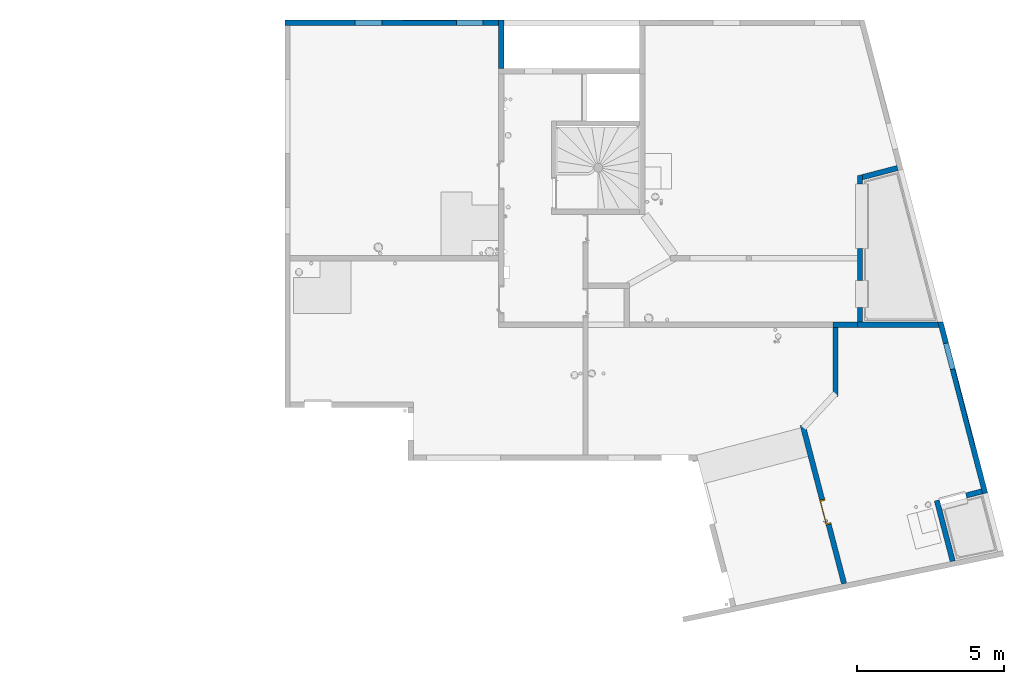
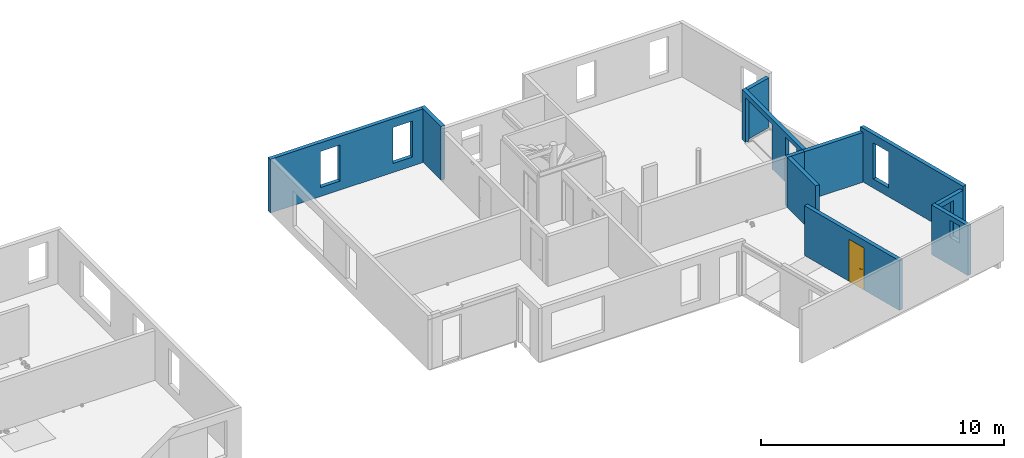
# One storey, part 15 of 24: 11 walls, 1 door, 12 openings.
"""IFC2X3 building model written with IfcOpenShell, lengths in centimetres."""

from ifc_helpers import new_model, entity, si_unit, converted_unit, derived_unit, direction, frame, frame_2d, origin, place, context, subcontext, project, spatial, polyline, rectangle, outline, extrude, faceted_brep, source, transform, mapped, material, material_list, layer, layer_set, layer_usage, type_object, type_shapes, element, fill, save


model = new_model("IFC2X3")

# Units and contexts
model_context = context("Model", 3, precision=0.001, world=origin(), true_north=direction((6.12303176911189e-17, 1.0)))
body_context = subcontext(model_context, "Body", "Model", "MODEL_VIEW")
ifc_project = project(units=[si_unit("LENGTHUNIT", "METRE", prefix="CENTI"), si_unit("AREAUNIT", "SQUARE_METRE"), si_unit("VOLUMEUNIT", "CUBIC_METRE"), converted_unit("PLANEANGLEUNIT", "DEGREE", entity("IfcRatioMeasure", 0.0174532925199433), si_unit("PLANEANGLEUNIT", "RADIAN"), dimensions=[0, 0, 0, 0, 0, 0, 0]), si_unit("MASSUNIT", "GRAM", prefix="KILO"), derived_unit("MASSDENSITYUNIT", [(si_unit("MASSUNIT", "GRAM", prefix="KILO"), 1), (si_unit("LENGTHUNIT", "METRE"), -3)]), si_unit("TIMEUNIT", "SECOND"), si_unit("FREQUENCYUNIT", "HERTZ"), si_unit("THERMODYNAMICTEMPERATUREUNIT", "DEGREE_CELSIUS"), derived_unit("THERMALTRANSMITTANCEUNIT", [(si_unit("MASSUNIT", "GRAM", prefix="KILO"), 1), (si_unit("THERMODYNAMICTEMPERATUREUNIT", "KELVIN"), -1), (si_unit("TIMEUNIT", "SECOND"), -3)]), derived_unit("VOLUMETRICFLOWRATEUNIT", [(si_unit("LENGTHUNIT", "METRE"), 3), (si_unit("TIMEUNIT", "SECOND"), -1)]), si_unit("ELECTRICCURRENTUNIT", "AMPERE"), si_unit("ELECTRICVOLTAGEUNIT", "VOLT"), si_unit("POWERUNIT", "WATT"), si_unit("FORCEUNIT", "NEWTON"), si_unit("ILLUMINANCEUNIT", "LUX"), si_unit("LUMINOUSFLUXUNIT", "LUMEN"), si_unit("LUMINOUSINTENSITYUNIT", "CANDELA"), derived_unit("USERDEFINED", [(si_unit("MASSUNIT", "GRAM", prefix="KILO"), -1), (si_unit("LENGTHUNIT", "METRE"), -2), (si_unit("TIMEUNIT", "SECOND"), 3), (si_unit("LUMINOUSFLUXUNIT", "LUMEN"), 1)]), derived_unit("LINEARVELOCITYUNIT", [(si_unit("LENGTHUNIT", "METRE"), 1), (si_unit("TIMEUNIT", "SECOND"), -1)]), si_unit("PRESSUREUNIT", "PASCAL"), derived_unit("USERDEFINED", [(si_unit("LENGTHUNIT", "METRE"), -2), (si_unit("MASSUNIT", "GRAM", prefix="KILO"), 1), (si_unit("TIMEUNIT", "SECOND"), -2)])], contexts=[model_context])

# Site, building, storey
site_placement = place(None, origin())
site = spatial("IfcSite", under=ifc_project, at=site_placement, Name="Default", CompositionType="ELEMENT")
building_placement = place(site_placement, origin())
building = spatial("IfcBuilding", under=site, at=building_placement, Name="CAGE 03", CompositionType="ELEMENT")
storey_placement = place(building_placement, frame((0.0, 0.0, 1150.0)))
storey = spatial("IfcBuildingStorey", under=building, at=storey_placement, Name="R+4", CompositionType="ELEMENT", Elevation=1150.0)

# Wall, openings
ifc_material_1 = material(Name="Béton, C25/30")
ifc_layer = layer(ifc_material_1, 18.0)
ifc_layer_set = layer_set([ifc_layer], Name="Mur de base:Voile BA 18")
ifc_layer_usage_1 = layer_usage(ifc_layer_set, "AXIS2", "POSITIVE", -9.0)
wall_type = type_object("IfcWallType", Name="Mur de base:Voile BA 18", PredefinedType="STANDARD", material=ifc_layer_set)
wall_1_placement = place(storey_placement, frame((11554.520882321, 3453.61460927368, 0.0), z_axis=(0.0, 0.0, 1.0), x_axis=(-0.252679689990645, 0.967549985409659, 0.0)))
wall_1 = element("IfcWallStandardCase", 1, at=wall_1_placement, inside=storey, type_object=wall_type, material=ifc_layer_usage_1, Name="Mur de base:Voile BA 18", ObjectType="Mur de base:Voile BA 18", context=body_context, shape_type="SweptSolid", body=[
    extrude(outline(polyline([(0.940291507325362, 9.0), (0.0, -9.0), (195.9684546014, -9.0), (213.9684546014, -9.0), (213.9684546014, 9.0), (0.940291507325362, 9.0)])), origin(), (0.0, 0.0, 1.0), 250.0),
])
opening_1_placement = place(wall_1_placement, origin())
element("IfcOpeningElement", 2, at=opening_1_placement, cuts=wall_1, Name="Mur de base:Voile BA 18", ObjectType="Opening", context=body_context, shape_type="SweptSolid", body=[
    extrude(rectangle(XDim=226.0, YDim=18.0000000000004, at=frame_2d((-4.2810199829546e-13, 1.13686837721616e-13), x_axis=(0.0, 1.0))), frame((204.968454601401, -100.0, 113.0), z_axis=(0.0, 1.0, 0.0), x_axis=(1.0, 0.0, 0.0)), (0.0, 0.0, 1.0), 91.0000000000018),
])
opening_2_placement = place(wall_1_placement, frame((-421.952010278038, 12052.2347799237, 0.0), z_axis=(0.0, 0.0, 1.0), x_axis=(-0.252679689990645, -0.967549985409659, 0.0)))
element("IfcOpeningElement", 3, at=opening_2_placement, cuts=wall_1, Name="Mur de base:Voile BA 18", ObjectType="Opening", context=body_context, shape_type="SweptSolid", body=[
    extrude(rectangle(XDim=85.9999999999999, YDim=54.9999999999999, at=frame_2d((2.16715534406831e-13, -4.2810199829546e-13), x_axis=(1.0, 0.0))), frame((11691.1087448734, 3569.35171335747, 183.0), z_axis=(-0.967549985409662, -0.252679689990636, 0.0), x_axis=(0.0, 0.0, 1.0)), (0.0, 0.0, 1.0), 304.799999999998),
])

# Wall, opening
ifc_layer_usage_2 = layer_usage(ifc_layer_set, "AXIS2", "POSITIVE", -9.0)
wall_2_placement = place(storey_placement, frame((11511.4374666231, 3654.20595174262, 0.0), z_axis=(0.0, 0.0, 1.0), x_axis=(0.967549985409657, 0.252679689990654, 0.0)))
wall_2 = element("IfcWallStandardCase", 4, at=wall_2_placement, inside=storey, type_object=wall_type, material=ifc_layer_usage_2, Name="Mur de base:Voile BA 18", ObjectType="Mur de base:Voile BA 18", context=body_context, shape_type="SweptSolid", body=[
    extrude(rectangle(XDim=147.000000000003, YDim=17.9999999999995, at=frame_2d((73.5000000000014, -2.27373675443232e-13), x_axis=(-1.0, 0.0))), origin(), (0.0, 0.0, 1.0), 250.0),
])
opening_3_placement = place(wall_2_placement, frame((-12061.2347799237, -626.920464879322, 0.0), z_axis=(0.0, 0.0, 1.0), x_axis=(0.967549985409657, -0.252679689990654, 0.0)))
element("IfcOpeningElement", 5, at=opening_3_placement, cuts=wall_2, Name="Mur de base:Voile BA 18", ObjectType="Opening", context=body_context, shape_type="SweptSolid", body=[
    extrude(rectangle(XDim=226.0, YDim=90.9999999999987, at=frame_2d((5.6843418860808e-14, -1.13686837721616e-13), x_axis=(0.0, 1.0))), frame((11596.2434929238, 3509.54030999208, 113.0), z_axis=(-0.252679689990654, 0.967549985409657, 0.0), x_axis=(-0.967549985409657, -0.252679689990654, 0.0)), (0.0, 0.0, 1.0), 304.799999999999),
])

# Wall, openings
ifc_layer_usage_3 = layer_usage(ifc_layer_set, "AXIS2", "POSITIVE", -9.0)
wall_3_placement = place(storey_placement, frame((11664.649381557, 3684.91603351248, 0.0), z_axis=(0.0, 0.0, 1.0), x_axis=(-0.25267968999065, 0.967549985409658, 0.0)))
wall_3 = element("IfcWallStandardCase", 6, at=wall_3_placement, inside=storey, type_object=wall_type, material=ifc_layer_usage_3, Name="Mur de base:Voile BA 18", ObjectType="Mur de base:Voile BA 18", context=body_context, shape_type="SweptSolid", body=[
    extrude(outline(polyline([(598.904991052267, -9.0), (603.605765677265, 9.0), (585.002075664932, 9.0), (18.0, 9.0), (0.0, 9.0), (0.0, -9.0), (18.0, -9.0), (598.904991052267, -9.0)])), origin(), (0.0, 0.0, 1.0), 270.0),
])
opening_4_placement = place(wall_3_placement, origin())
element("IfcOpeningElement", 7, at=opening_4_placement, cuts=wall_3, Name="Mur de base:Voile BA 18", ObjectType="Recess", context=body_context, shape_type="SweptSolid", body=[
    extrude(rectangle(XDim=181.0, YDim=273.0, at=frame_2d((-2.1316282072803e-13, -1.06581410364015e-13), x_axis=(0.0, 1.0))), frame((299.5, -9.0, 135.5), z_axis=(0.0, 1.0, 0.0), x_axis=(1.0, 0.0, 0.0)), (0.0, 0.0, 1.0), 1.99999999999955),
])
opening_5_placement = place(wall_3_placement, origin())
element("IfcOpeningElement", 8, at=opening_5_placement, cuts=wall_3, Name="Mur de base:Voile BA 18", ObjectType="Recess", context=body_context, shape_type="SweptSolid", body=[
    extrude(rectangle(XDim=181.0, YDim=184.0, at=frame_2d((-4.2632564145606e-13, -1.06581410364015e-13), x_axis=(0.0, 1.0))), frame((1392.0, -9.0, 135.5), z_axis=(0.0, 1.0, 0.0), x_axis=(1.0, 0.0, 0.0)), (0.0, 0.0, 1.0), 2.00000000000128),
])
opening_6_placement = place(wall_3_placement, frame((-617.920464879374, 12217.2347799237, 0.0), z_axis=(0.0, 0.0, 1.0), x_axis=(-0.25267968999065, -0.967549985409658, 0.0)))
element("IfcOpeningElement", 9, at=opening_6_placement, cuts=wall_3, Name="Mur de base:Voile BA 18", ObjectType="Opening", context=body_context, shape_type="SweptSolid", body=[
    extrude(rectangle(XDim=181.0, YDim=91.0000000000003, at=frame_2d((-2.1316282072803e-13, -2.16715534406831e-13), x_axis=(1.0, 0.0))), frame((11699.1466784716, 4191.57385345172, 135.5), z_axis=(-0.967549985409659, -0.252679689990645, 0.0), x_axis=(0.0, 0.0, 1.0)), (0.0, 0.0, 1.0), 304.8),
])

# Walls
ifc_layer_usage_4 = layer_usage(ifc_layer_set, "AXIS2", "POSITIVE", -9.0)
wall_4_placement = place(storey_placement, frame((11508.1232885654, 4257.66066607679, 0.0), z_axis=(0.0, 0.0, 1.0), x_axis=(-1.0, 0.0, 0.0)))
element("IfcWallStandardCase", 10, at=wall_4_placement, inside=storey, type_object=wall_type, material=ifc_layer_usage_4, Name="Mur de base:Voile BA 18", ObjectType="Mur de base:Voile BA 18", context=body_context, shape_type="SweptSolid", body=[
    extrude(outline(polyline([(277.7574684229, -9.0), (277.7574684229, 9.0), (0.0, 9.0), (4.70077462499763, -9.0), (259.7574684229, -9.0), (277.7574684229, -9.0)])), origin(), (0.0, 0.0, 1.0), 250.0),
])
ifc_layer_usage_5 = layer_usage(ifc_layer_set, "AXIS2", "POSITIVE", -9.0)
wall_5_placement = place(storey_placement, frame((11155.8658201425, 4248.66066607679, 0.0), z_axis=(0.0, 0.0, 1.0), x_axis=(0.0, -1.0, 0.0)))
element("IfcWallStandardCase", 11, at=wall_5_placement, inside=storey, type_object=wall_type, material=ifc_layer_usage_5, Name="Mur de base:Voile BA 18", ObjectType="Mur de base:Voile BA 18", context=body_context, shape_type="SweptSolid", body=[
    extrude(rectangle(XDim=234.000000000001, YDim=17.9999999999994, at=frame_2d((117.0, 2.90434343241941e-13), x_axis=(-1.0, 0.0))), origin(), (0.0, 0.0, 1.0), 250.0),
])

# Wall, opening, door
ifc_layer_usage_6 = layer_usage(ifc_layer_set, "AXIS2", "POSITIVE", -9.0)
wall_6_placement = place(storey_placement, frame((11044.4501025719, 3916.7265258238, 0.0), z_axis=(0.0, 0.0, 1.0), x_axis=(0.252679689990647, -0.967549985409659, 0.0)))
wall_6 = element("IfcWallStandardCase", 12, at=wall_6_placement, inside=storey, type_object=wall_type, material=ifc_layer_usage_6, Name="Mur de base:Voile BA 18", ObjectType="Mur de base:Voile BA 18", context=body_context, shape_type="SweptSolid", body=[
    extrude(outline(polyline([(0.0, -9.0), (556.360399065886, -9.0), (557.300690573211, 9.0), (0.0, 9.0), (0.0, -9.0)])), origin(), (0.0, 0.0, 1.0), 250.0),
])
opening_7_placement = place(wall_6_placement, frame((349.0, 9.0, 0.0)))
opening_7 = element("IfcOpeningElement", 13, at=opening_7_placement, cuts=wall_6, Name="Int. Simple:HB83:1", ObjectType="Opening", context=body_context, shape_type="SweptSolid", body=[
    extrude(rectangle(XDim=210.000000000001, YDim=86.9999999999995, at=frame_2d((105.000000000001, 43.4999999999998), x_axis=(1.0, 0.0))), frame((0.0, 0.0, 0.0), z_axis=(0.0, -1.0, 0.0), x_axis=(0.0, 0.0, 1.0)), (0.0, 0.0, 1.0), 18.0),
])
ifc_material_2 = material(Name="Finition Peinture - Blanc satiné")
ifc_material_3 = material(Name="Bois - Panneau de porte")
ifc_material_4 = material(Name="Bois - Cadre de porte")
ifc_material_list_1 = material_list([ifc_material_2, ifc_material_3, ifc_material_4])
ifc_material_list_2 = material_list([ifc_material_2, ifc_material_3, ifc_material_4])
door_style = type_object("IfcDoorStyle", Name="HB83", ConstructionType="NOTDEFINED", OperationType="SINGLE_SWING_RIGHT", ParameterTakesPrecedence=False, Sizeable=False, material=ifc_material_list_2)
shared_shape = source(origin(), body_context, "Body", "Brep", [
    faceted_brep([(86.5000000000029, -0.500000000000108, 87.0), (86.5000000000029, -0.500000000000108, 108.0), (85.535276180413, -0.500000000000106, 108.399601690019), (84.5000000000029, -0.500000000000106, 108.535898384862), (83.4647238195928, -0.500000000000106, 108.399601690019), (82.500000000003, -0.500000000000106, 108.0), (82.5000000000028, -0.500000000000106, 87.0), (83.4647238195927, -0.500000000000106, 86.6003983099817), (84.5000000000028, -0.500000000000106, 86.464101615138), (85.5352761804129, -0.500000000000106, 86.6003983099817), (86.5000000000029, 0.0, 108.0), (86.5000000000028, 0.0, 87.0), (85.5352761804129, 0.0, 86.6003983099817), (84.5000000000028, 0.0, 86.464101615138), (83.4647238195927, 0.0, 86.6003983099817), (82.5000000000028, 0.0, 87.0), (82.500000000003, 0.0, 108.0), (83.4647238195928, 0.0, 108.399601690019), (84.5000000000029, 0.0, 108.535898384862), (85.535276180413, 0.0, 108.399601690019)], [[[0, 1, 2, 3, 4, 5, 6, 7, 8, 9]], [[10, 11, 12, 13, 14, 15, 16, 17, 18, 19]], [[9, 12, 11, 0]], [[8, 13, 12, 9]], [[7, 14, 13, 8]], [[7, 6, 15, 14]], [[15, 6, 5, 16]], [[4, 17, 16, 5]], [[3, 18, 17, 4]], [[2, 19, 18, 3]], [[2, 1, 10, 19]], [[11, 10, 1, 0]]]),
    faceted_brep([(86.5000000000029, 3.0, 87.0), (86.5000000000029, 3.0, 108.0), (85.535276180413, 3.0, 108.399601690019), (84.500000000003, 3.0, 108.535898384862), (83.4647238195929, 3.0, 108.399601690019), (82.500000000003, 3.0, 108.0), (82.5000000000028, 3.0, 87.0), (83.4647238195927, 3.0, 86.6003983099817), (84.5000000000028, 3.0, 86.464101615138), (85.5352761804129, 3.0, 86.6003983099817), (84.500000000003, 3.49999999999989, 108.535898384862), (85.535276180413, 3.49999999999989, 108.399601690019), (86.5000000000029, 3.49999999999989, 108.0), (86.5000000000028, 3.49999999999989, 87.0), (85.5352761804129, 3.49999999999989, 86.6003983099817), (84.5000000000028, 3.49999999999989, 86.464101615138), (83.4647238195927, 3.49999999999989, 86.6003983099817), (82.5000000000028, 3.49999999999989, 87.0), (82.500000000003, 3.49999999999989, 108.0), (83.4647238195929, 3.49999999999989, 108.399601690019)], [[[0, 1, 2, 3, 4, 5, 6, 7, 8, 9]], [[10, 11, 12, 13, 14, 15, 16, 17, 18, 19]], [[4, 19, 18, 5]], [[3, 10, 19, 4]], [[2, 11, 10, 3]], [[2, 1, 12, 11]], [[13, 12, 1, 0]], [[9, 14, 13, 0]], [[8, 15, 14, 9]], [[7, 16, 15, 8]], [[7, 6, 17, 16]], [[17, 6, 5, 18]]]),
    faceted_brep([(84.297470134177, -0.500000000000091, 100.778044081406), (84.7025298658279, -0.500000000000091, 100.778044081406), (85.1000000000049, -0.500000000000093, 100.699999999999), (85.1000000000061, -0.500000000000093, 99.299999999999), (84.702529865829, -0.500000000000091, 99.2219559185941), (84.297470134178, -0.500000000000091, 99.2219559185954), (83.9000000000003, -0.500000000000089, 99.3000000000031), (83.9000000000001, -0.500000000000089, 100.7), (84.7025298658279, -3.1004575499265, 100.778044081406), (85.1000000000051, -3.26509507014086, 100.7), (84.297470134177, -2.93267631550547, 100.778044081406), (82.9298602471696, -4.30028620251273, 100.778044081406), (83.0976414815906, -4.70534593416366, 100.778044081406), (83.9000000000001, -2.76803879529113, 100.7), (83.9000000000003, -2.76803879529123, 99.3000000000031), (84.297470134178, -2.93267631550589, 99.2219559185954), (84.702529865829, -3.10045754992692, 99.2219559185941), (83.097641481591, -4.70534593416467, 99.2219559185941), (82.92986024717, -4.30028620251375, 99.2219559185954), (85.1000000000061, -3.26509507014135, 99.299999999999), (83.2622790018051, -5.10281606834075, 100.7), (82.7652227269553, -3.90281606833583, 100.7), (82.7652227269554, -3.90281606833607, 99.3000000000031), (83.2622790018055, -5.10281606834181, 99.299999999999), (74.4981359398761, -5.1028160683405, 100.7), (74.4981359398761, -4.7053459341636, 100.778044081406), (74.4981359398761, -4.30028620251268, 100.778044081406), (74.4981359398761, -3.90281606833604, 100.699999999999), (74.4981359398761, -3.90281606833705, 99.3000000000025), (74.4981359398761, -4.30028620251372, 99.2219559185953), (74.4981359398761, -4.70534593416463, 99.2219559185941), (74.4981359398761, -5.10281606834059, 99.2999999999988), (78.7139980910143, -4.50281606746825, 100.78786867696), (79.2692302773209, -5.10281606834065, 100.7), (78.6316793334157, -3.90281606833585, 100.7), (78.6316793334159, -3.90281606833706, 99.3000000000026), (78.7139981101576, -4.50281607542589, 99.2121313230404), (79.2692299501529, -5.10281606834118, 99.2999999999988)], [[[0, 1, 2, 3, 4, 5, 6, 7]], [[2, 1, 8, 9]], [[1, 0, 10, 11, 12, 8]], [[0, 7, 13, 10]], [[14, 13, 7, 6]], [[5, 15, 14, 6]], [[5, 4, 16, 17, 18, 15]], [[3, 19, 16, 4]], [[9, 19, 3, 2]], [[9, 8, 12, 20]], [[10, 13, 21, 11]], [[22, 21, 13, 14]], [[14, 15, 18, 22]], [[16, 19, 23, 17]], [[20, 23, 19, 9]], [[24, 25, 26, 27, 28, 29, 30, 31]], [[32, 25, 33]], [[33, 25, 24]], [[33, 20, 12]], [[11, 34, 32]], [[34, 11, 21]], [[27, 26, 34]], [[32, 26, 25]], [[32, 34, 26]], [[32, 33, 12]], [[11, 32, 12]], [[21, 22, 35, 28, 27, 34]], [[36, 29, 35]], [[30, 36, 37]], [[18, 35, 22]], [[29, 28, 35]], [[30, 37, 31]], [[37, 17, 23]], [[36, 17, 37]], [[36, 18, 17]], [[36, 35, 18]], [[29, 36, 30]], [[23, 20, 33, 24, 31, 37]]]),
    faceted_brep([(84.2974701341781, 3.49999999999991, 99.2219559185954), (84.702529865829, 3.49999999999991, 99.2219559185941), (85.1000000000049, 3.4999999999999, 99.2999999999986), (85.1000000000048, 3.4999999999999, 100.7), (84.7025298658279, 3.49999999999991, 100.778044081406), (84.297470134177, 3.49999999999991, 100.778044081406), (83.9000000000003, 3.49999999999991, 100.7), (83.9000000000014, 3.49999999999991, 99.3000000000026), (83.9000000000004, 5.74852045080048, 100.7), (83.9000000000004, 5.74852045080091, 99.3000000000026), (84.2974701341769, 5.91315797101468, 100.778044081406), (84.7025298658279, 6.08093920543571, 100.778044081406), (83.0838906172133, 7.69957845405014, 100.778044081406), (82.9161093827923, 7.29451872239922, 100.778044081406), (85.1000000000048, 6.24557672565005, 100.7), (85.1000000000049, 6.2455767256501, 99.2999999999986), (84.702529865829, 6.08093920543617, 99.2219559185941), (84.2974701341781, 5.91315797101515, 99.2219559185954), (82.9161093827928, 7.29451872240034, 99.2219559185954), (83.0838906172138, 7.69957845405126, 99.2219559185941), (82.7514718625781, 6.89704858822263, 100.7), (82.7514718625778, 6.89704858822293, 99.3000000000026), (83.2485281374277, 8.09704858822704, 100.7), (83.2485281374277, 8.09704858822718, 99.2999999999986), (74.4954216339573, 7.29451872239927, 100.778044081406), (74.4954216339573, 7.6995784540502, 100.778044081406), (74.4954216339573, 8.0970485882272, 100.7), (74.4954216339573, 8.09704858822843, 99.299999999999), (74.4954216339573, 7.6995784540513, 99.2219559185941), (74.4954216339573, 7.29451872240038, 99.2219559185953), (74.4954216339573, 6.89704858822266, 99.3000000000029), (74.4954216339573, 6.89704858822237, 100.7), (78.6234467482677, 6.89704858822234, 100.7), (78.6234479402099, 6.89704858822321, 99.3000000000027), (78.7057655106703, 7.4970485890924, 100.78786867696), (79.255479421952, 8.09704858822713, 100.7), (79.2554794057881, 8.09704858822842, 99.299999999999), (78.7057654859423, 7.49704858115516, 99.2121313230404)], [[[0, 1, 2, 3, 4, 5, 6, 7]], [[8, 9, 7, 6]], [[5, 10, 8, 6]], [[5, 4, 11, 12, 13, 10]], [[3, 14, 11, 4]], [[14, 3, 2, 15]], [[2, 1, 16, 15]], [[1, 0, 17, 18, 19, 16]], [[0, 7, 9, 17]], [[20, 21, 9, 8]], [[8, 10, 13, 20]], [[14, 22, 12, 11]], [[23, 22, 14, 15]], [[15, 16, 19, 23]], [[17, 9, 21, 18]], [[24, 25, 26, 27, 28, 29, 30, 31]], [[20, 32, 31, 30, 33, 21]], [[34, 24, 32]], [[25, 34, 35]], [[13, 32, 20]], [[24, 31, 32]], [[25, 35, 26]], [[35, 12, 22]], [[34, 12, 35]], [[34, 13, 12]], [[34, 32, 13]], [[24, 34, 25]], [[22, 23, 36, 27, 26, 35]], [[37, 28, 36]], [[36, 28, 27]], [[36, 23, 19]], [[18, 33, 37]], [[33, 18, 21]], [[30, 29, 33]], [[37, 29, 28]], [[37, 33, 29]], [[37, 36, 19]], [[18, 37, 19]]]),
    faceted_brep([(90.5000000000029, 3.0, 206.5), (90.5000000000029, 3.0, 0.0), (10.5000000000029, 3.0, 0.0), (10.5000000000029, 3.0, 206.5), (90.5000000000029, 0.0, 206.5), (10.5000000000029, 0.0, 206.5), (10.5000000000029, 0.0, 0.0), (90.5000000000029, 0.0, 0.0)], [[[0, 1, 2, 3]], [[4, 5, 6, 7]], [[3, 5, 4, 0]], [[2, 6, 5, 3]], [[1, 7, 6, 2]], [[0, 4, 7, 1]]]),
    faceted_brep([(94.0, 0.0, 0.0), (90.5000000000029, 0.0, 0.0), (90.5000000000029, 3.0, 0.0), (89.0, 3.0, 0.0), (89.0, 18.0, 0.0), (94.0, 18.0, 0.0), (94.0, 18.0, 210.0), (94.0, 0.0, 210.0), (89.0, 18.0, 205.0), (12.0, 18.0, 205.0), (12.0, 18.0, 0.0), (7.0, 18.0, 0.0), (7.0, 18.0, 210.0), (89.0, 3.0, 205.0), (90.5000000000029, 3.0, 206.5), (10.5000000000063, 3.0, 206.5), (10.5000000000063, 3.0, 0.0), (12.0, 3.0, 0.0), (12.0, 3.0, 205.0), (90.5000000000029, 0.0, 206.5), (7.0, 0.0, 210.0), (7.0, 0.0, 0.0), (10.5000000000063, 0.0, 0.0), (10.5000000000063, 0.0, 206.5)], [[[0, 1, 2, 3, 4, 5]], [[5, 6, 7, 0]], [[4, 8, 9, 10, 11, 12, 6, 5]], [[3, 13, 8, 4]], [[2, 14, 15, 16, 17, 18, 13, 3]], [[1, 19, 14, 2]], [[0, 7, 20, 21, 22, 23, 19, 1]], [[12, 11, 21, 20]], [[21, 11, 10, 17, 16, 22]], [[18, 17, 10, 9]], [[23, 22, 16, 15]], [[6, 12, 20, 7]], [[13, 18, 9, 8]], [[19, 23, 15, 14]]]),
    faceted_brep([(92.5000000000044, 18.0, 0.0), (92.5000000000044, 18.5000000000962, 0.0), (95.5000000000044, 18.5000000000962, 0.0), (95.5000000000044, 18.0, 0.0), (95.5000000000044, 18.0, 211.500000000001), (5.50000000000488, 18.0, 211.500000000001), (5.50000000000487, 18.0, 0.0), (8.50000000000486, 18.0, 0.0), (8.50000000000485, 18.0, 208.500000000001), (92.5000000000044, 18.0, 208.500000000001), (95.5000000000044, 18.5000000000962, 211.500000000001), (92.5000000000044, 18.5000000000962, 208.500000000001), (8.50000000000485, 18.5000000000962, 208.500000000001), (8.50000000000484, 18.5000000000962, 0.0), (5.50000000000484, 18.5000000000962, 0.0), (5.50000000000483, 18.5000000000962, 211.500000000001)], [[[0, 1, 2, 3]], [[3, 4, 5, 6, 7, 8, 9, 0]], [[2, 10, 4, 3]], [[1, 11, 12, 13, 14, 15, 10, 2]], [[0, 9, 11, 1]], [[7, 6, 14, 13]], [[8, 7, 13, 12]], [[15, 14, 6, 5]], [[10, 15, 5, 4]], [[9, 8, 12, 11]]]),
    faceted_brep([(95.5000000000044, -0.5, 0.0), (95.5000000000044, -0.5, 211.500000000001), (5.50000000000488, -0.5, 211.500000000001), (5.50000000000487, -0.5, 0.0), (8.50000000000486, -0.5, 0.0), (8.50000000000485, -0.5, 208.500000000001), (92.5000000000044, -0.5, 208.500000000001), (92.5000000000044, -0.5, 0.0), (95.5000000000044, 0.0, 0.0), (95.5000000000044, 0.0, 211.500000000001), (92.5000000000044, 0.0, 0.0), (92.5000000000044, 0.0, 208.500000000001), (8.50000000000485, 0.0, 208.500000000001), (8.50000000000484, 0.0, 0.0), (5.50000000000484, 0.0, 0.0), (5.50000000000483, 0.0, 211.500000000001)], [[[0, 1, 2, 3, 4, 5, 6, 7]], [[8, 9, 1, 0]], [[10, 11, 12, 13, 14, 15, 9, 8]], [[7, 6, 11, 10]], [[5, 4, 13, 12]], [[15, 14, 3, 2]], [[9, 15, 2, 1]], [[6, 5, 12, 11]], [[4, 3, 14, 13]], [[7, 10, 8, 0]]]),
])
type_shapes(door_style, [shared_shape])
door_placement = place(opening_7_placement, frame((-94.0, -18.0, 0.0)))
door = element("IfcDoor", 14, at=door_placement, inside=storey, type_object=door_style, material=ifc_material_list_1, Name="Int. Simple:HB83", ObjectType="HB83", OverallHeight=210.000000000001, OverallWidth=86.9999999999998, context=body_context, shape_type="MappedRepresentation", body=[
    mapped(shared_shape, transform((0.0, 0.0, 0.0), scale=1.0)),
])
fill(opening_7, door)

# Wall, openings
ifc_layer_usage_7 = layer_usage(ifc_layer_set, "AXIS2", "NEGATIVE", 9.0)
wall_7_placement = place(storey_placement, frame((11239.3658201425, 4266.66066607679, 0.0), z_axis=(0.0, 0.0, 1.0), x_axis=(0.0, 1.0, 0.0)))
wall_7 = element("IfcWallStandardCase", 15, at=wall_7_placement, inside=storey, type_object=wall_type, material=ifc_layer_usage_7, Name="Mur de base:Voile BA 18", ObjectType="Mur de base:Voile BA 18", context=body_context, shape_type="SweptSolid", body=[
    extrude(outline(polyline([(0.0, -9.0), (483.640736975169, -9.0), (502.244426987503, -9.0), (497.543652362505, 9.0), (0.0, 9.0), (0.0, -9.0)])), origin(), (0.0, 0.0, 1.0), 250.0),
])
opening_8_placement = place(wall_7_placement, frame((-4266.66066607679, 11239.3658201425, 0.0), z_axis=(0.0, 0.0, 1.0), x_axis=(0.0, -1.0, 0.0)))
element("IfcOpeningElement", 16, at=opening_8_placement, cuts=wall_7, Name="Mur de base:Voile BA 18", ObjectType="Opening", context=body_context, shape_type="SweptSolid", body=[
    extrude(rectangle(XDim=226.0, YDim=91.0000000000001, at=frame_2d((-1.13686837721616e-13, 0.0), x_axis=(1.0, 0.0))), frame((11400.7658201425, 4362.16066607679, 113.0), z_axis=(-1.0, 0.0, 0.0), x_axis=(0.0, 0.0, 1.0)), (0.0, 0.0, 1.0), 304.8),
])
opening_9_placement = place(wall_7_placement, frame((-4266.66066607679, 11239.3658201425, 0.0), z_axis=(0.0, 0.0, 1.0), x_axis=(0.0, -1.0, 0.0)))
element("IfcOpeningElement", 17, at=opening_9_placement, cuts=wall_7, Name="Mur de base:Voile BA 18", ObjectType="Opening", context=body_context, shape_type="SweptSolid", body=[
    extrude(rectangle(XDim=226.0, YDim=220.0, at=frame_2d((-1.13686837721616e-13, 0.0), x_axis=(1.0, 0.0))), frame((11400.7658201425, 4626.66066607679, 113.0), z_axis=(-1.0, 0.0, 0.0), x_axis=(0.0, 0.0, 1.0)), (0.0, 0.0, 1.0), 304.8),
])

# Wall
ifc_layer_usage_8 = layer_usage(ifc_layer_set, "AXIS2", "NEGATIVE", 9.0)
wall_8_placement = place(storey_placement, frame((11246.0917029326, 4759.00935292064, 0.0), z_axis=(0.0, 0.0, 1.0), x_axis=(0.96754998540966, 0.252679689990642, 0.0)))
element("IfcWallStandardCase", 18, at=wall_8_placement, inside=storey, type_object=wall_type, material=ifc_layer_usage_8, Name="Mur de base:Voile BA 18", ObjectType="Mur de base:Voile BA 18", context=body_context, shape_type="SweptSolid", body=[
    extrude(outline(polyline([(124.573908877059, -9.0), (124.573908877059, 9.0), (4.70077462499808, 9.0), (0.0, -9.0), (124.573908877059, -9.0)])), origin(), (0.0, 0.0, 1.0), 250.0),
])

# Wall, openings
ifc_layer_usage_9 = layer_usage(ifc_layer_set, "AXIS2", "POSITIVE", -9.0)
wall_9_placement = place(storey_placement, frame((10010.3658201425, 5284.66066607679, 0.0), z_axis=(0.0, 0.0, 1.0), x_axis=(-1.0, 0.0, 0.0)))
wall_9 = element("IfcWallStandardCase", 19, at=wall_9_placement, inside=storey, type_object=wall_type, material=ifc_layer_usage_9, Name="Mur de base:Voile BA 18", ObjectType="Mur de base:Voile BA 18", context=body_context, shape_type="SweptSolid", body=[
    extrude(rectangle(XDim=725.999999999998, YDim=17.9999999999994, at=frame_2d((362.999999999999, -3.64153152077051e-14), x_axis=(-1.0, 0.0))), origin(), (0.0, 0.0, 1.0), 270.0),
])
opening_10_placement = place(wall_9_placement, origin())
element("IfcOpeningElement", 20, at=opening_10_placement, cuts=wall_9, Name="Mur de base:Voile BA 18", ObjectType="Recess", context=body_context, shape_type="SweptSolid", body=[
    extrude(rectangle(XDim=181.0, YDim=184.0, at=frame_2d((0.0, -1.06581410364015e-13), x_axis=(0.0, 1.0))), frame((235.0, -9.0, 135.5), z_axis=(0.0, 1.0, 0.0), x_axis=(1.0, 0.0, 0.0)), (0.0, 0.0, 1.0), 1.99999999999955),
])
opening_11_placement = place(wall_9_placement, frame((10010.3658201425, 5284.66066607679, 0.0), z_axis=(0.0, 0.0, 1.0), x_axis=(-1.0, 0.0, 0.0)))
element("IfcOpeningElement", 21, at=opening_11_placement, cuts=wall_9, Name="Mur de base:Voile BA 18", ObjectType="Opening", context=body_context, shape_type="SweptSolid", body=[
    extrude(rectangle(XDim=181.0, YDim=90.9999999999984, at=frame_2d((8.66862137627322e-13, 0.0), x_axis=(0.0, 1.0))), frame((9912.86582014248, 5428.06066607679, 135.5), z_axis=(0.0, -1.0, 0.0), x_axis=(1.0, 0.0, 0.0)), (0.0, 0.0, 1.0), 304.8),
])
opening_12_placement = place(wall_9_placement, frame((10010.3658201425, 5284.66066607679, 0.0), z_axis=(0.0, 0.0, 1.0), x_axis=(-1.0, 0.0, 0.0)))
element("IfcOpeningElement", 22, at=opening_12_placement, cuts=wall_9, Name="Mur de base:Voile BA 18", ObjectType="Opening", context=body_context, shape_type="SweptSolid", body=[
    extrude(rectangle(XDim=181.0, YDim=90.9999999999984, at=frame_2d((8.66862137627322e-13, 1.06581410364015e-13), x_axis=(0.0, 1.0))), frame((9568.86582014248, 5428.06066607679, 135.5), z_axis=(0.0, -1.0, 0.0), x_axis=(1.0, 0.0, 0.0)), (0.0, 0.0, 1.0), 304.8),
])

# Walls
ifc_layer_usage_10 = layer_usage(ifc_layer_set, "AXIS2", "POSITIVE", -9.0)
wall_10_placement = place(storey_placement, frame((11230.3658201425, 4257.66066607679, 0.0), z_axis=(0.0, 0.0, 1.0), x_axis=(-1.0, 0.0, 0.0)))
element("IfcWallStandardCase", 23, at=wall_10_placement, inside=storey, type_object=wall_type, material=ifc_layer_usage_10, Name="Mur de base:Voile BA 18", ObjectType="Mur de base:Voile BA 18", context=body_context, shape_type="SweptSolid", body=[
    extrude(rectangle(XDim=83.5000000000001, YDim=17.9999999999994, at=frame_2d((41.75, 1.31450406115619e-13), x_axis=(-1.0, 0.0))), origin(), (0.0, 0.0, 1.0), 250.0),
])
ifc_layer_usage_11 = layer_usage(ifc_layer_set, "AXIS2", "POSITIVE", -9.0)
wall_11_placement = place(storey_placement, frame((10019.3658201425, 5128.66066607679, 0.0), z_axis=(0.0, 0.0, 1.0), x_axis=(0.0, 1.0, 0.0)))
element("IfcWallStandardCase", 24, at=wall_11_placement, inside=storey, type_object=wall_type, material=ifc_layer_usage_11, Name="Mur de base:Voile BA 18", ObjectType="Mur de base:Voile BA 18", context=body_context, shape_type="SweptSolid", body=[
    extrude(rectangle(XDim=165.000000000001, YDim=17.9999999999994, at=frame_2d((82.5000000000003, 1.74082970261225e-13), x_axis=(-1.0, 0.0))), origin(), (0.0, 0.0, 1.0), 270.0),
])

save(model, "model.ifc")
